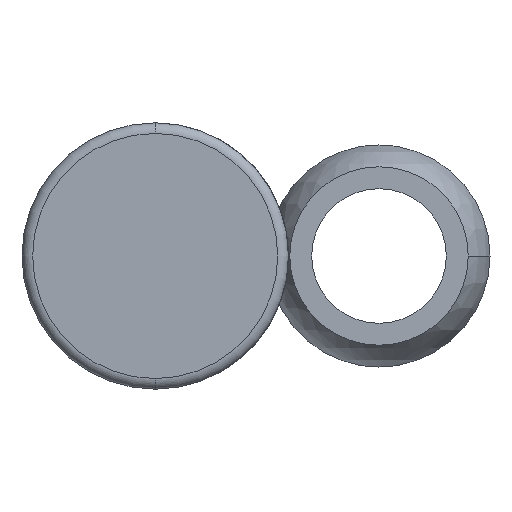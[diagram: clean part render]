
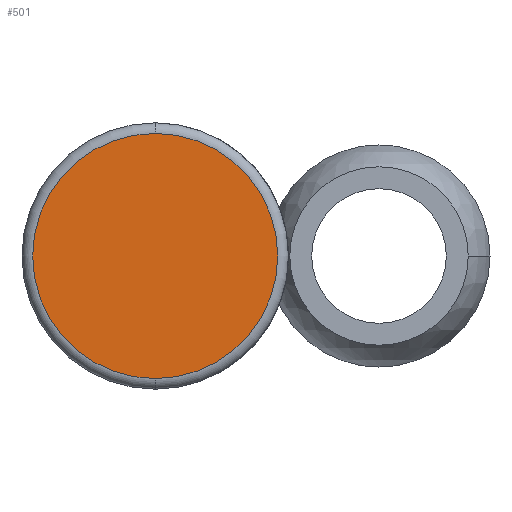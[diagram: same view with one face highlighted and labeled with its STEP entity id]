
A CAD part, front view. The second image highlights one B-rep face of the part: STEP entity #501.
In plain terms, the highlighted planar face has unit normal (0, -1, 0).
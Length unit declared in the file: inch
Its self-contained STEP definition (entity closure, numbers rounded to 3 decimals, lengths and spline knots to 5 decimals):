
#17 = VERTEX_POINT ( 'NONE', #491 ) ;
#126 = FACE_OUTER_BOUND ( 'NONE', #414, .T. ) ;
#134 = DIRECTION ( 'NONE',  ( 0., -1., 0. ) ) ;
#198 = CARTESIAN_POINT ( 'NONE',  ( 0., -1.25, -0.345 ) ) ;
#414 = EDGE_LOOP ( 'NONE', ( #494, #1009 ) ) ;
#458 = PLANE ( 'NONE',  #589 ) ;
#491 = CARTESIAN_POINT ( 'NONE',  ( 0., -1.25, 0.345 ) ) ;
#494 = ORIENTED_EDGE ( 'NONE', *, *, #620, .T. ) ;
#501 = ADVANCED_FACE ( 'NONE', ( #126 ), #458, .F. ) ;
#526 = AXIS2_PLACEMENT_3D ( 'NONE', #969, #134, #897 ) ;
#585 = CARTESIAN_POINT ( 'NONE',  ( 0., -1.25, 0. ) ) ;
#589 = AXIS2_PLACEMENT_3D ( 'NONE', #932, #636, #1183 ) ;
#590 = DIRECTION ( 'NONE',  ( 0., 0., 1. ) ) ;
#620 = EDGE_CURVE ( 'NONE', #17, #722, #785, .T. ) ;
#636 = DIRECTION ( 'NONE',  ( 0., 1., 0. ) ) ;
#722 = VERTEX_POINT ( 'NONE', #198 ) ;
#785 = CIRCLE ( 'NONE', #526, 0.345 ) ;
#897 = DIRECTION ( 'NONE',  ( 0., 0., 1. ) ) ;
#932 = CARTESIAN_POINT ( 'NONE',  ( 0., -1.25, 0. ) ) ;
#969 = CARTESIAN_POINT ( 'NONE',  ( 0., -1.25, 0. ) ) ;
#1009 = ORIENTED_EDGE ( 'NONE', *, *, #1160, .T. ) ;
#1140 = DIRECTION ( 'NONE',  ( 0., -1., 0. ) ) ;
#1152 = CIRCLE ( 'NONE', #1162, 0.345 ) ;
#1160 = EDGE_CURVE ( 'NONE', #722, #17, #1152, .T. ) ;
#1162 = AXIS2_PLACEMENT_3D ( 'NONE', #585, #1140, #590 ) ;
#1183 = DIRECTION ( 'NONE',  ( 0., 0., 1. ) ) ;
